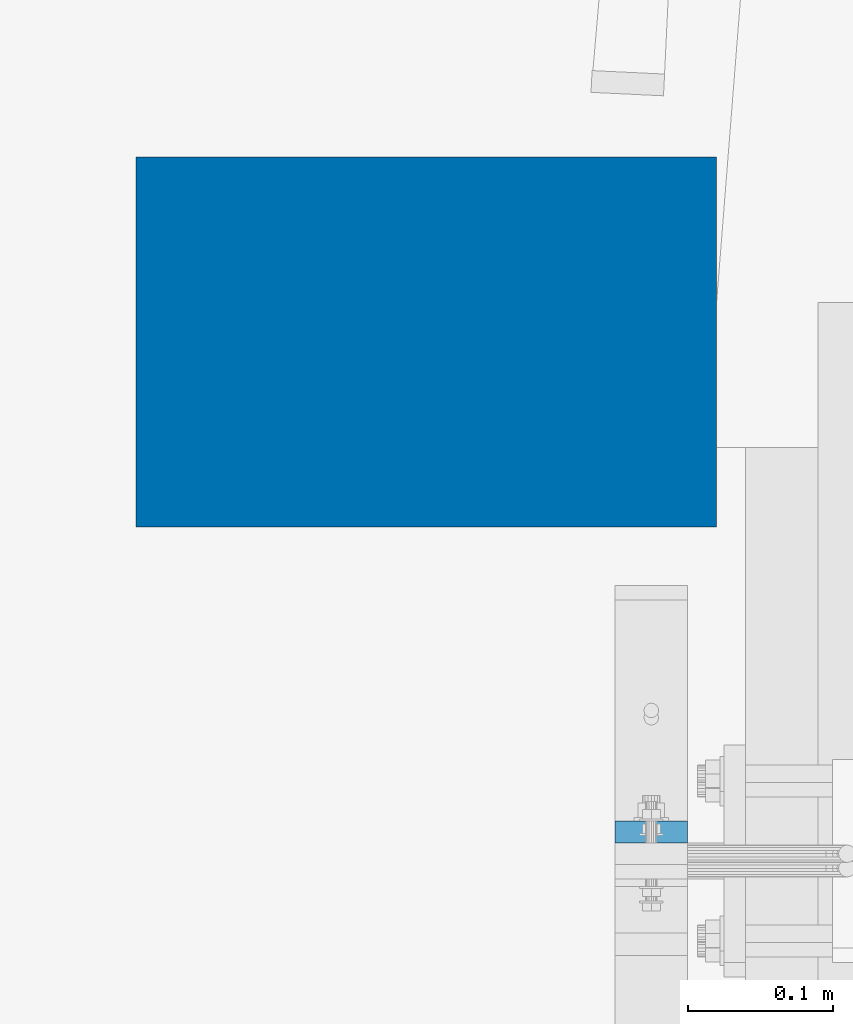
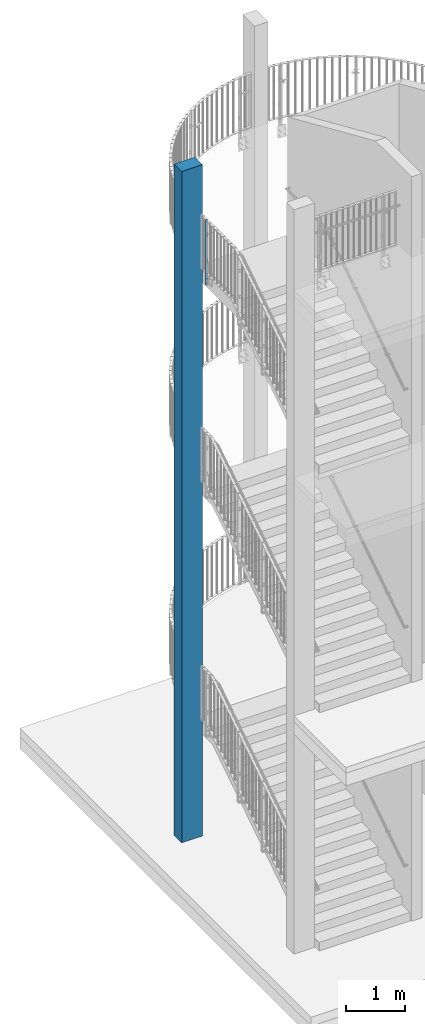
# One storey, part 57 of 296: 2 columns, 6 openings.
"""IFC2X3 building model written with IfcOpenShell, lengths in millimetres."""

from ifc_helpers import new_model, entity, si_unit, converted_unit, frame, frame_2d, origin, origin_with_axes, origin_2d, place, context, project, spatial, polyline, rectangle, circle, outline, extrude, material, element, save


model = new_model("IFC2X3")

# Units and contexts
model_context = context("Model", 3, precision=1e-09, world=origin_with_axes())
ifc_project = project(units=[si_unit("LENGTHUNIT", "METRE", prefix="MILLI"), si_unit("AREAUNIT", "SQUARE_METRE"), si_unit("VOLUMEUNIT", "CUBIC_METRE"), converted_unit("PLANEANGLEUNIT", "DEGREE", entity("IfcPlaneAngleMeasure", 0.01745329), si_unit("PLANEANGLEUNIT", "RADIAN"), dimensions=[0, 0, 0, 0, 0, 0, 0])], contexts=[model_context])

# Site, building, storey
site_placement = place(None, origin_with_axes())
site = spatial("IfcSite", under=ifc_project, at=site_placement, Name="TZD-S?d | Treppenhausgel?nder", CompositionType="ELEMENT")
building_placement = place(site_placement, origin_with_axes())
building = spatial("IfcBuilding", under=site, at=building_placement, Name="Struktur 1", CompositionType="ELEMENT")
storey_placement = place(building_placement, origin_with_axes())
storey = spatial("IfcBuildingStorey", under=building, at=storey_placement, Name="Default Storey", CompositionType="ELEMENT", Elevation=0.0)

# Column
ifc_material_1 = material(Name="C20/25")
column_1_placement = place(None, frame((-200.0, -127.5, 0.0), z_axis=(0.0, 0.0, -1.0), x_axis=(0.0, 1.0, 0.0)))
element("IfcColumn", 1, at=column_1_placement, inside=storey, material=ifc_material_1, Name="Column", ObjectType="Column", context=model_context, shape_type="SweptSolid", body=[
    extrude(outline(polyline([(127.5, -200.0), (127.5, 200.0), (-127.5, 200.0), (-127.5, -200.0), (127.5, -200.0)])), origin(), (0.0, 0.0, -1.0), 13800.0),
])

# Column, openings
ifc_material_2 = material(Name="S235JR")
column_2_placement = place(None, frame((-45.0, -465.0, 11480.001), z_axis=(0.0, 0.0, -1.0), x_axis=(0.0, -1.0, 0.0)))
column_2 = element("IfcColumn", 2, at=column_2_placement, inside=storey, material=ifc_material_2, Name="-", ObjectType="-", context=model_context, shape_type="SweptSolid", body=[
    extrude(rectangle(XDim=15.0, YDim=50.0, at=origin_2d()), origin(), (0.0, 0.0, -1.0), 1334.999),
])
opening_1_placement = place(column_2_placement, frame((-8.0, 0.0, -1039.999999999), z_axis=(1.0, 0.0, 0.0), x_axis=(0.0, -1.0, 0.0)))
element("IfcOpeningElement", 3, at=opening_1_placement, cuts=column_2, ObjectType="Opening", context=model_context, shape_type="SweptSolid", body=[
    extrude(circle(Radius=5.001, at=frame_2d((0.0, 25.0), x_axis=(1.0, 0.0))), origin(), (0.0, 0.0, 1.0), 16.0),
])
opening_2_placement = place(column_2_placement, frame((-8.0, 0.0, -1039.999999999), z_axis=(1.0, 0.0, 0.0), x_axis=(0.0, -1.0, 0.0)))
element("IfcOpeningElement", 4, at=opening_2_placement, cuts=column_2, ObjectType="Opening", context=model_context, shape_type="SweptSolid", body=[
    extrude(circle(Radius=5.001, at=frame_2d((0.0, -25.0), x_axis=(1.0, 0.0))), origin(), (0.0, 0.0, 1.0), 16.0),
])
opening_3_placement = place(column_2_placement, frame((-8.0, 0.0, -85.0), z_axis=(1.0, 0.0, 0.0), x_axis=(0.0, -1.0, 0.0)))
element("IfcOpeningElement", 5, at=opening_3_placement, cuts=column_2, ObjectType="Opening", context=model_context, shape_type="SweptSolid", body=[
    extrude(circle(Radius=7.001, at=frame_2d((0.0, 50.0), x_axis=(1.0, 0.0))), origin(), (0.0, 0.0, 1.0), 16.0),
])
opening_4_placement = place(column_2_placement, frame((-8.0, 0.0, -85.0), z_axis=(1.0, 0.0, 0.0), x_axis=(0.0, -1.0, 0.0)))
element("IfcOpeningElement", 6, at=opening_4_placement, cuts=column_2, ObjectType="Opening", context=model_context, shape_type="SweptSolid", body=[
    extrude(circle(Radius=7.001, at=frame_2d((0.0, -50.0), x_axis=(1.0, 0.0))), origin(), (0.0, 0.0, 1.0), 16.0),
])
opening_5_placement = place(column_2_placement, frame((-8.0, 0.0, -509.999999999), z_axis=(1.0, 0.0, 0.0), x_axis=(0.0, -1.0, 0.0)))
element("IfcOpeningElement", 7, at=opening_5_placement, cuts=column_2, ObjectType="Opening", context=model_context, shape_type="SweptSolid", body=[
    extrude(circle(Radius=5.001, at=frame_2d((0.0, 25.0), x_axis=(1.0, 0.0))), origin(), (0.0, 0.0, 1.0), 16.0),
])
opening_6_placement = place(column_2_placement, frame((-8.0, 0.0, -509.999999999), z_axis=(1.0, 0.0, 0.0), x_axis=(0.0, -1.0, 0.0)))
element("IfcOpeningElement", 8, at=opening_6_placement, cuts=column_2, ObjectType="Opening", context=model_context, shape_type="SweptSolid", body=[
    extrude(circle(Radius=5.001, at=frame_2d((0.0, -25.0), x_axis=(1.0, 0.0))), origin(), (0.0, 0.0, 1.0), 16.0),
])

save(model, "model.ifc")
